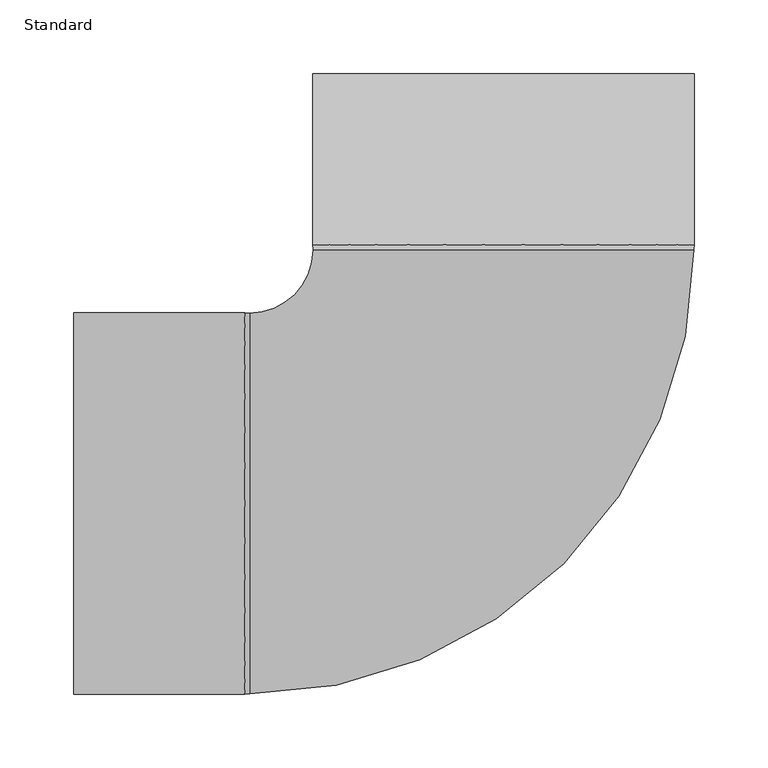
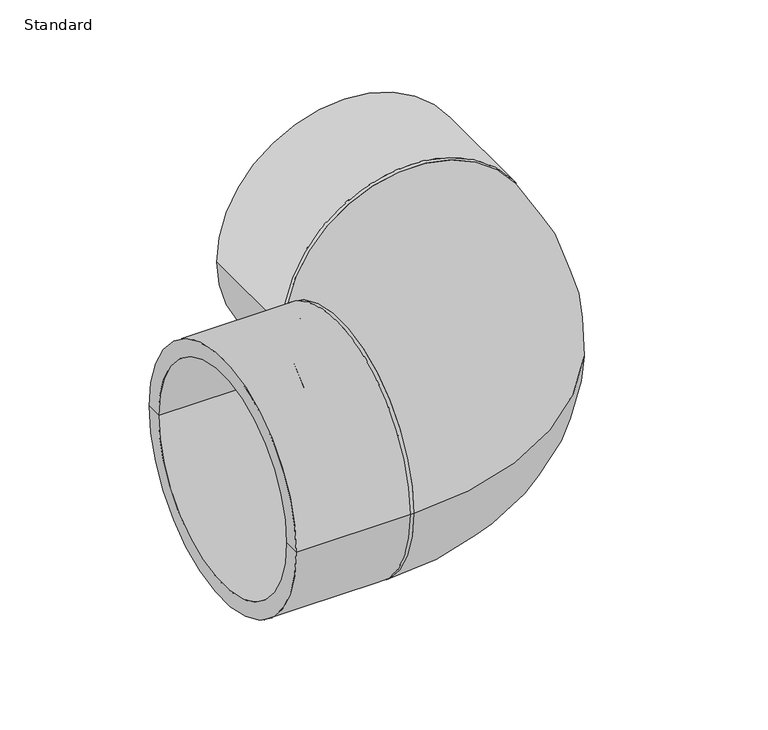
"""IFC4 building model written with IfcOpenShell, lengths in millimetres: pipe fitting geometry, Durapipe_PipeFitting_PVC_Elbow90deg_225To315 : Standard."""

from ifc_helpers import new_model, si_unit, point, frame, origin, place, context, project, spatial, polyline, circle_curve, ellipse_curve, trimmed, source, transform, mapped, element, save
from ifc_brep_helpers import plane_surface, cylinder_surface, revolved_surface, advanced_brep


def standard_6b13ad6d(model_context):
    return source(origin(), model_context, "Body", "AdvancedBrep", [
        advanced_brep(
        [(129.0, 175.0, 0.0), (-129.0, 175.0, 0.0), (-129.0, 290.5, 0.0), (129.0, 290.5, 0.0), (128.7, 171.5, 0.0), (-128.7, 171.5, 0.0), (-112.5, 290.5, 0.0), (112.5, 290.5, 0.0), (112.5, 175.0, 0.0), (-112.5, 175.0, 0.0), (0.0, 175.0, 0.0), (0.0, 171.5, 0.0)],
        [
            (0, 1, circle_curve(frame((0.0, 175.0, 0.0), z_axis=(0.0, 1.0, 0.0), x_axis=(-1.0, 0.0, 0.0)), 129.0)),
            (1, 2),
            (2, 3, circle_curve(frame((0.0, 290.5, 0.0), z_axis=(0.0, -1.0, 0.0), x_axis=(-1.0, 0.0, 0.0)), 129.0)),
            (3, 0),
            (1, 0, circle_curve(frame((0.0, 175.0, 0.0), z_axis=(0.0, 1.0, 0.0), x_axis=(-1.0, 0.0, 0.0)), 129.0)),
            (3, 2, circle_curve(frame((0.0, 290.5, 0.0), z_axis=(0.0, -1.0, 0.0), x_axis=(-1.0, 0.0, 0.0)), 129.0)),
            (0, 4),
            (4, 5, circle_curve(frame((0.0, 171.5, 0.0), z_axis=(0.0, 1.0, 0.0), x_axis=(-1.0, 0.0, 0.0)), 128.7)),
            (5, 1),
            (5, 4, circle_curve(frame((0.0, 171.5, 0.0), z_axis=(0.0, 1.0, 0.0), x_axis=(-1.0, 0.0, 0.0)), 128.7)),
            (2, 6),
            (6, 7, circle_curve(frame((0.0, 290.5, 0.0), z_axis=(0.0, -1.0, 0.0), x_axis=(-1.0, 0.0, 0.0)), 112.5)),
            (7, 3),
            (7, 6, circle_curve(frame((0.0, 290.5, 0.0), z_axis=(0.0, -1.0, 0.0), x_axis=(-1.0, 0.0, 0.0)), 112.5)),
            (8, 9, circle_curve(frame((0.0, 175.0, 0.0), z_axis=(0.0, 1.0, 0.0), x_axis=(-1.0, 0.0, 0.0)), 112.5)),
            (9, 10),
            (10, 8),
            (9, 8, circle_curve(frame((0.0, 175.0, 0.0), z_axis=(0.0, 1.0, 0.0), x_axis=(-1.0, 0.0, 0.0)), 112.5)),
            (6, 9),
            (8, 7),
            (4, 11),
            (11, 5),
        ],
        [
            cylinder_surface(frame((0.0, 2233.5, 0.0), z_axis=(0.0, -1.0, 0.0), x_axis=(-1.0, 0.0, 0.0)), 129.0),
            revolved_surface(polyline([(-129.0, 175.0, 0.0), (-128.7, 171.5, 0.0)]), (0.0, 2233.5, 0.0), (0.0, -1.0, 0.0)),
            plane_surface(frame((0.0, 290.5, 0.0), z_axis=(0.0, 1.0, 0.0), x_axis=(-1.0, 0.0, 0.0))),
            plane_surface(frame((0.0, 175.0, 0.0), z_axis=(0.0, 1.0, 0.0), x_axis=(-1.0, 0.0, 0.0))),
            revolved_surface(polyline([(-112.5, 175.0, 0.0), (-112.5, 290.5, 0.0)]), (0.0, 2233.5, 0.0), (0.0, -1.0, 0.0)),
            plane_surface(frame((0.0, 171.5, 0.0), z_axis=(0.0, -1.0, 0.0), x_axis=(-1.0, 0.0, 0.0))),
        ],
        [
            (0, [[1, 2, 3, 4]]),
            (0, [[-2, 5, -4, 6]]),
            (1, [[-1, 7, 8, 9]]),
            (1, [[-5, -9, 10, -7]]),
            (2, [[-3, 11, 12, 13]]),
            (2, [[-6, -13, 14, -11]]),
            (3, [[15, 16, 17]]),
            (3, [[-16, 18, -17]]),
            (4, [[-12, 19, -15, 20]]),
            (4, [[-14, -20, -18, -19]]),
            (5, [[-8, 21, 22]]),
            (5, [[-10, -22, -21]]),
        ],
    ),
        advanced_brep(
        [(-290.5, -112.5, 0.0), (-290.5, 112.5, 0.0), (-290.5, 129.0, 0.0), (-290.5, -129.0, 0.0), (-171.5, 128.7, 0.0), (-171.5, -128.7, 0.0), (-175.0, -129.0, 0.0), (-175.0, 129.0, 0.0), (-175.0, -112.5, 0.0), (-175.0, 112.5, 0.0), (-175.0, 0.0, 0.0), (-171.5, 0.0, 0.0)],
        [
            (0, 1, circle_curve(frame((-290.5, 0.0, 0.0), z_axis=(1.0, 0.0, 0.0), x_axis=(0.0, 1.0, 0.0)), 112.5)),
            (1, 2),
            (2, 3, circle_curve(frame((-290.5, 0.0, 0.0), z_axis=(-1.0, 0.0, 0.0), x_axis=(0.0, 1.0, 0.0)), 129.0)),
            (3, 0),
            (1, 0, circle_curve(frame((-290.5, 0.0, 0.0), z_axis=(1.0, 0.0, 0.0), x_axis=(0.0, 1.0, 0.0)), 112.5)),
            (3, 2, circle_curve(frame((-290.5, 0.0, 0.0), z_axis=(-1.0, 0.0, 0.0), x_axis=(0.0, 1.0, 0.0)), 129.0)),
            (4, 5, circle_curve(frame((-171.5, 0.0, 0.0), z_axis=(-1.0, 0.0, 0.0), x_axis=(0.0, 1.0, 0.0)), 128.7)),
            (5, 6),
            (6, 7, circle_curve(frame((-175.0, 0.0, 0.0), z_axis=(1.0, 0.0, 0.0), x_axis=(0.0, 1.0, 0.0)), 129.0)),
            (7, 4),
            (5, 4, circle_curve(frame((-171.5, 0.0, 0.0), z_axis=(-1.0, 0.0, 0.0), x_axis=(0.0, 1.0, 0.0)), 128.7)),
            (7, 6, circle_curve(frame((-175.0, 0.0, 0.0), z_axis=(1.0, 0.0, 0.0), x_axis=(0.0, 1.0, 0.0)), 129.0)),
            (2, 7),
            (6, 3),
            (0, 8),
            (8, 9, circle_curve(frame((-175.0, 0.0, 0.0), z_axis=(1.0, 0.0, 0.0), x_axis=(0.0, 1.0, 0.0)), 112.5)),
            (9, 1),
            (9, 8, circle_curve(frame((-175.0, 0.0, 0.0), z_axis=(1.0, 0.0, 0.0), x_axis=(0.0, 1.0, 0.0)), 112.5)),
            (8, 10),
            (10, 9),
            (4, 11),
            (11, 5),
        ],
        [
            plane_surface(frame((-290.5, 0.0, 0.0), z_axis=(-1.0, 0.0, 0.0), x_axis=(0.0, 1.0, 0.0))),
            revolved_surface(polyline([(-171.5, 128.7, 0.0), (-175.0, 129.0, 0.0)]), (2116.0, 0.0, 0.0), (-1.0, 0.0, 0.0)),
            cylinder_surface(frame((2116.0, 0.0, 0.0), z_axis=(-1.0, 0.0, 0.0), x_axis=(0.0, 1.0, 0.0)), 129.0),
            revolved_surface(polyline([(-290.5, 112.5, 0.0), (-175.0, 112.5, 0.0)]), (2116.0, 0.0, 0.0), (-1.0, 0.0, 0.0)),
            plane_surface(frame((-175.0, 0.0, 0.0), z_axis=(-1.0, 0.0, 0.0), x_axis=(0.0, 1.0, 0.0))),
            plane_surface(frame((-171.5, 0.0, 0.0), z_axis=(1.0, 0.0, 0.0), x_axis=(0.0, 1.0, 0.0))),
        ],
        [
            (0, [[1, 2, 3, 4]]),
            (0, [[-2, 5, -4, 6]]),
            (1, [[7, 8, 9, 10]]),
            (1, [[11, -10, 12, -8]]),
            (2, [[-3, 13, -9, 14]]),
            (2, [[-6, -14, -12, -13]]),
            (3, [[-1, 15, 16, 17]]),
            (3, [[-5, -17, 18, -15]]),
            (4, [[-16, 19, 20]]),
            (4, [[-18, -20, -19]]),
            (5, [[-7, 21, 22]]),
            (5, [[-21, -11, -22]]),
        ],
    ),
        advanced_brep(
        [(-128.7, 171.5, 0.0), (-171.5, 128.7, 0.0), (-171.5, -128.7, 0.0), (128.7, 171.5, 0.0)],
        [
            (0, 1, circle_curve(frame((-171.5, 171.5, 0.0), z_axis=(0.0, 0.0, -1.0), x_axis=(0.0, -1.0, 0.0)), 42.8)),
            (1, 2, circle_curve(frame((-171.5, 0.0, 0.0), z_axis=(1.0, 0.0, 0.0), x_axis=(0.0, 1.0, 0.0)), 128.7)),
            (2, 3, circle_curve(frame((-171.5, 171.5, 0.0), z_axis=(0.0, 0.0, 1.0), x_axis=(0.0, -1.0, 0.0)), 300.2)),
            (3, 0, circle_curve(frame((0.0, 171.5, 0.0), z_axis=(0.0, -1.0, 0.0), x_axis=(-1.0, 0.0, 0.0)), 128.7)),
            (2, 1, circle_curve(frame((-171.5, 0.0, 0.0), z_axis=(1.0, 0.0, 0.0), x_axis=(0.0, 1.0, 0.0)), 128.7)),
            (0, 3, circle_curve(frame((0.0, 171.5, 0.0), z_axis=(0.0, -1.0, 0.0), x_axis=(-1.0, 0.0, 0.0)), 128.7)),
        ],
        [
            revolved_surface(trimmed(ellipse_curve(frame((-171.5, 0.0, 0.0), z_axis=(-1.0, 0.0, 0.0), x_axis=(0.0, 1.0, 0.0)), 128.7, 128.7), [point((-171.5, -128.7, 0.0))], [point((-171.5, 128.7, 0.0))], True, "CARTESIAN"), (-171.5, 171.5, 0.0), (0.0, 0.0, 1.0)),
            revolved_surface(trimmed(ellipse_curve(frame((-171.5, 0.0, 0.0), z_axis=(-1.0, 0.0, 0.0), x_axis=(0.0, 1.0, 0.0)), 128.7, 128.7), [point((-171.5, 128.7, 0.0))], [point((-171.5, -128.7, 0.0))], True, "CARTESIAN"), (-171.5, 171.5, 0.0), (0.0, 0.0, 1.0)),
            plane_surface(frame((-171.5, 0.0, 0.0), z_axis=(-1.0, 0.0, 0.0), x_axis=(0.0, 0.0, 1.0))),
            plane_surface(frame((0.0, 171.5, 0.0), z_axis=(0.0, 1.0, 0.0), x_axis=(0.0, 0.0, 1.0))),
        ],
        [
            (0, [[1, 2, 3, 4]]),
            (1, [[-3, 5, -1, 6]]),
            (2, [[-2, -5]]),
            (3, [[-6, -4]]),
        ],
    ),
    ])


if __name__ == "__main__":
    model = new_model("IFC4")
    model_context = context("Model", 3, world=origin())
    ifc_project = project(units=[si_unit("LENGTHUNIT", "METRE", prefix="MILLI")], contexts=[model_context])
    site = spatial("IfcSite", under=ifc_project)
    building = spatial("IfcBuilding", under=site)
    placement = place(None, origin())
    standard_shape = standard_6b13ad6d(model_context)
    element("IfcPipeFitting", 1, ObjectType="Durapipe_PipeFitting_PVC_Elbow90deg_225To315 : Standard", at=placement, inside=building, context=model_context, shape_type="MappedRepresentation", body=[
        mapped(standard_shape, transform((0.0, 0.0, 0.0), x_axis=(1.0, 0.0, 0.0), y_axis=(0.0, 1.0, 0.0), z_axis=(0.0, 0.0, 1.0))),
    ])
    save(model, "model.ifc")
